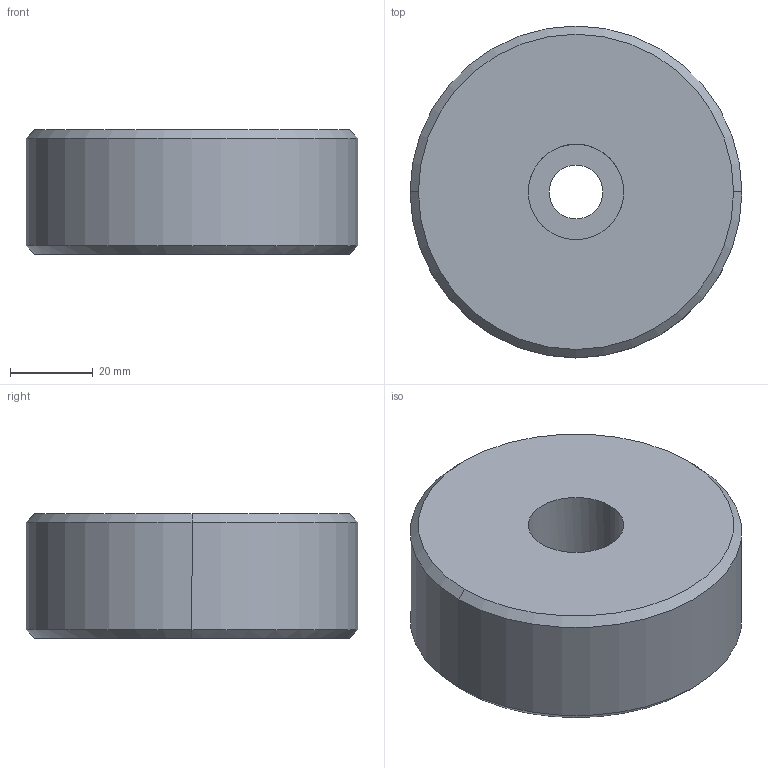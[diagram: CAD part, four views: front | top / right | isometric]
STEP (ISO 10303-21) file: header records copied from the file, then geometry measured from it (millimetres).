
FILE_DESCRIPTION(('CATIA V5 STEP Exchange'),'2;1');
FILE_NAME('C:\Users\Utente\Desktop\IO LAVORO\3D X SITO CF\X 3D SITO CF 27-09-2020\703\703.4.stp','2020-10-25T12:39:20+00:00',('none'),('none'),'CATIA Version 5 Release 20 GA (IN-10)','CATIA V5 STEP AP203','none');
FILE_SCHEMA(('CONFIG_CONTROL_DESIGN'));
Length unit declared in the file: millimetre
Products named in the file (1): 703.4
Bounding box: 80 x 80 x 30 mm (x, y, z)
Volume: 140736.5 mm3; surface area: 18518.9 mm2
Topology: 1 solids, 1 shells, 13 faces, 26 edges, 16 vertices
Faces by surface type: cylinder 6, cone 4, plane 3
Entity records: 458 total; most frequent: CARTESIAN_POINT 148, ORIENTED_EDGE 52, DIRECTION 48, AXIS2_PLACEMENT_3D 26, EDGE_CURVE 26, EDGE_LOOP 16, VERTEX_POINT 16, ADVANCED_FACE 13
